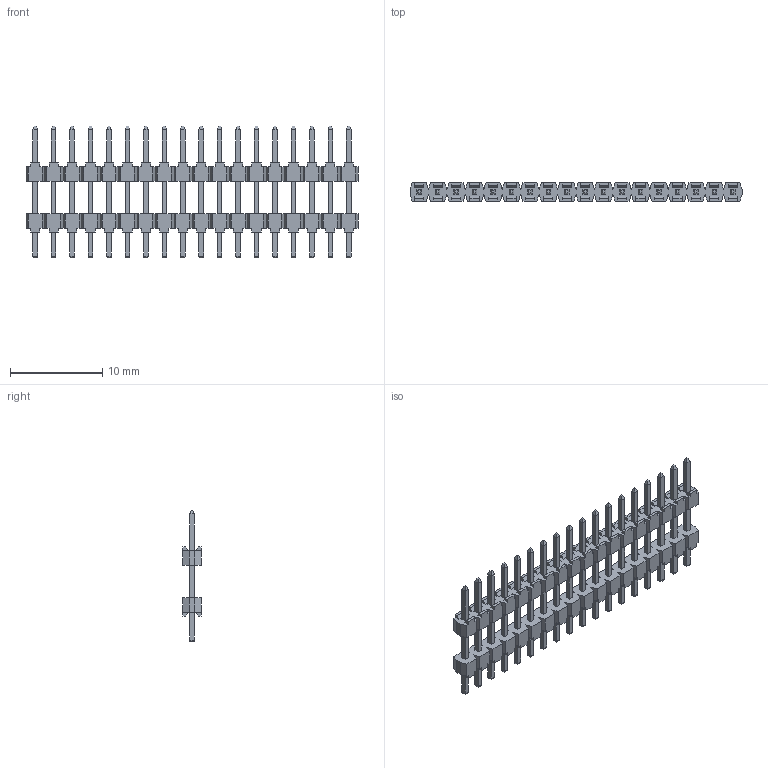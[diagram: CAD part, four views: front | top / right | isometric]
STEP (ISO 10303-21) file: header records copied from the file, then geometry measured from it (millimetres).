
FILE_DESCRIPTION(/* description */ (''),/* implementation_level */ '2;1');
FILE_NAME(/* name */ '951418-9011506-AR',/* time_stamp */ '2007-03-14T13:22:18+01:00',/* author */ (''),/* organization */ (''),/* preprocessor_version */ 'ST-DEVELOPER v9',/* originating_system */ 'UGS - NX 4.0',/* authorisation */ '');
FILE_SCHEMA (('AUTOMOTIVE_DESIGN { 1 0 10303 214 1 1 1 1 }'));
Length unit declared in the file: millimetre
Products named in the file (1): 951418-9011506-AR
Bounding box: 36 x 2 x 14.3 mm (x, y, z)
Volume: 271.3 mm3; surface area: 1059.6 mm2
Topology: 1 solids, 1 shells, 908 faces, 2460 edges, 1592 vertices
Faces by surface type: plane 836, cylinder 72
Entity records: 27916 total; most frequent: CARTESIAN_POINT 4961, ORIENTED_EDGE 4920, DIRECTION 4350, EDGE_CURVE 2460, LINE 2388, VECTOR 2388, VERTEX_POINT 1592, AXIS2_PLACEMENT_3D 981
